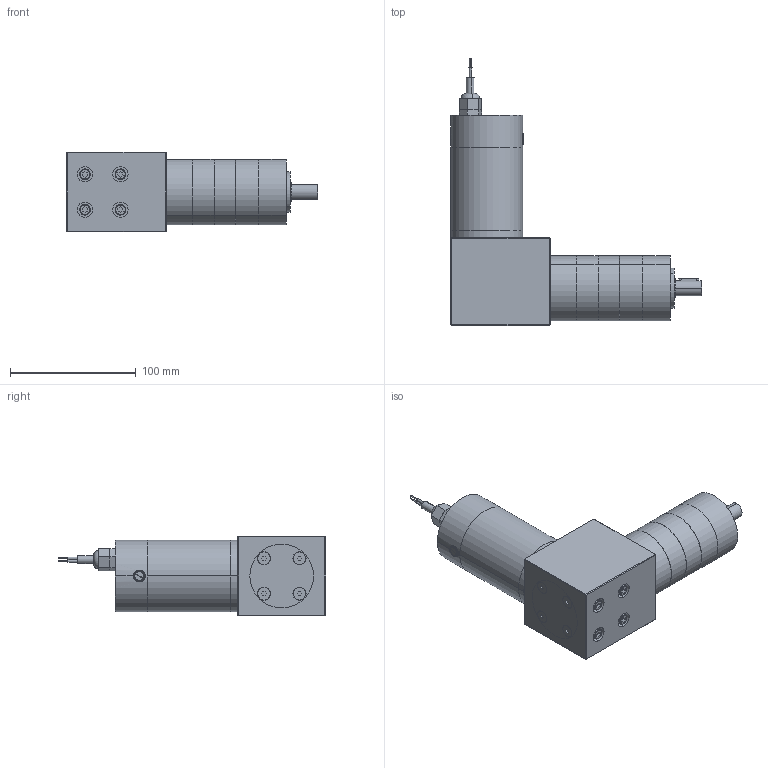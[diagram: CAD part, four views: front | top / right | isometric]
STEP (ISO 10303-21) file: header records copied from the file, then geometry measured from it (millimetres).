
FILE_DESCRIPTION (( 'STEP AP203' ), '1' );
FILE_NAME ('tm57gra4.step', '2022-05-11T15:44:15', ( '' ), ( '' ), 'SwSTEP 2.0', 'SolidWorks 2017', '' );
FILE_SCHEMA (( 'CONFIG_CONTROL_DESIGN' ));
Length unit declared in the file: millimetre
Products named in the file (1): tm57gra4
Bounding box: 200.76 x 212.86 x 63.5 mm (x, y, z)
Volume: 800067.8 mm3; surface area: 127015.5 mm2
Topology: 25 solids, 25 shells, 584 faces, 1265 edges, 782 vertices
Faces by surface type: plane 270, cylinder 218, cone 85, torus 7, sphere 4
Entity records: 16124 total; most frequent: DIRECTION 2953, CARTESIAN_POINT 2886, ORIENTED_EDGE 2498, EDGE_CURVE 1249, AXIS2_PLACEMENT_3D 1133, VERTEX_POINT 782, EDGE_LOOP 695, VECTOR 687
